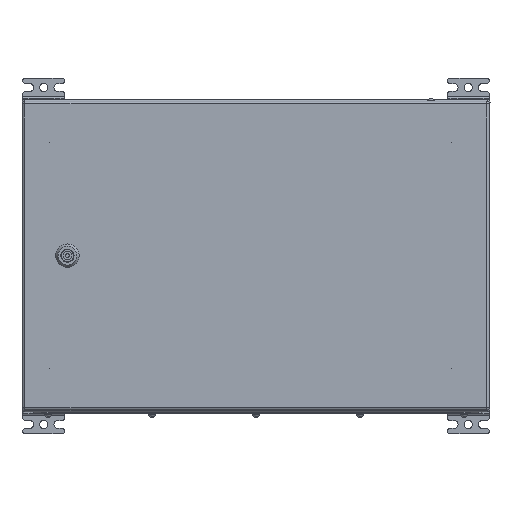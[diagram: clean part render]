
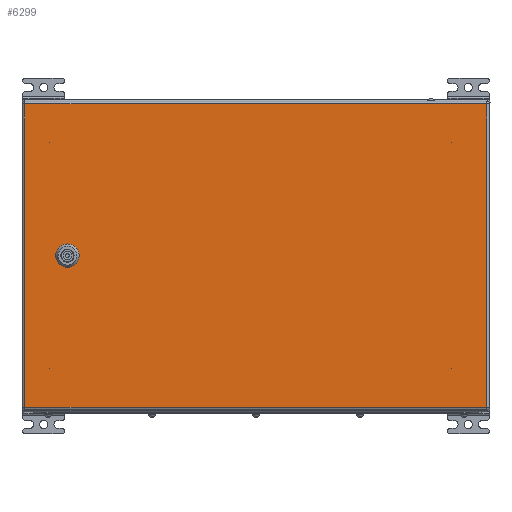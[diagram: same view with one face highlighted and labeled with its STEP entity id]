
A CAD part, top view. The second image highlights one B-rep face of the part: STEP entity #6299.
In plain terms, the highlighted planar face has unit normal (0, 0, 1).
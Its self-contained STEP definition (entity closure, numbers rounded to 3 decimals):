
#6299=ADVANCED_FACE('',(#14324,#14326),#14328,.T.);
#14324=FACE_BOUND('',#14325,.T.);
#14325=EDGE_LOOP('',(#36809,#36810,#36811,#36812));
#14326=FACE_BOUND('',#14327,.T.);
#14327=EDGE_LOOP('',(#36813,#36814,#36815,#36816,#36817,#36818,#36819,#36820));
#14328=PLANE('',#14329);
#14329=AXIS2_PLACEMENT_3D('',#14330,#14331,#14332);
#14330=CARTESIAN_POINT('',(0.,0.,1.5));
#14331=DIRECTION('',(0.,0.,1.));
#14332=DIRECTION('',(1.,0.,0.));
#36809=ORIENTED_EDGE('',*,*,#41117,.T.);
#36810=ORIENTED_EDGE('',*,*,#41118,.T.);
#36811=ORIENTED_EDGE('',*,*,#41119,.T.);
#36812=ORIENTED_EDGE('',*,*,#41120,.T.);
#36813=ORIENTED_EDGE('',*,*,#41079,.T.);
#36814=ORIENTED_EDGE('',*,*,#41094,.T.);
#36815=ORIENTED_EDGE('',*,*,#41092,.T.);
#36816=ORIENTED_EDGE('',*,*,#41090,.T.);
#36817=ORIENTED_EDGE('',*,*,#41088,.T.);
#36818=ORIENTED_EDGE('',*,*,#41086,.T.);
#36819=ORIENTED_EDGE('',*,*,#41084,.T.);
#36820=ORIENTED_EDGE('',*,*,#41082,.T.);
#41079=EDGE_CURVE('',#44575,#44576,#44577,.F.);
#41082=EDGE_CURVE('',#44580,#44575,#44581,.F.);
#41084=EDGE_CURVE('',#44583,#44580,#44584,.F.);
#41086=EDGE_CURVE('',#44586,#44583,#44587,.F.);
#41088=EDGE_CURVE('',#44589,#44586,#44590,.F.);
#41090=EDGE_CURVE('',#44592,#44589,#44593,.F.);
#41092=EDGE_CURVE('',#44595,#44592,#44596,.F.);
#41094=EDGE_CURVE('',#44576,#44595,#44598,.F.);
#41117=EDGE_CURVE('',#44635,#44636,#44637,.T.);
#41118=EDGE_CURVE('',#44636,#44638,#44639,.T.);
#41119=EDGE_CURVE('',#44638,#44640,#44641,.T.);
#41120=EDGE_CURVE('',#44640,#44635,#44642,.T.);
#44575=VERTEX_POINT('',#53403);
#44576=VERTEX_POINT('',#53404);
#44577=LINE('',#53405,#53406);
#44580=VERTEX_POINT('',#53414);
#44581=CIRCLE('',#53415,11.25);
#44583=VERTEX_POINT('',#53422);
#44584=LINE('',#53423,#53424);
#44586=VERTEX_POINT('',#53429);
#44587=CIRCLE('',#53430,11.25);
#44589=VERTEX_POINT('',#53437);
#44590=LINE('',#53438,#53439);
#44592=VERTEX_POINT('',#53444);
#44593=CIRCLE('',#53445,11.25);
#44595=VERTEX_POINT('',#53452);
#44596=LINE('',#53453,#53454);
#44598=CIRCLE('',#53459,11.25);
#44635=VERTEX_POINT('',#53549);
#44636=VERTEX_POINT('',#53550);
#44637=LINE('',#53551,#53552);
#44638=VERTEX_POINT('',#53554);
#44639=LINE('',#53555,#53556);
#44640=VERTEX_POINT('',#53558);
#44641=LINE('',#53559,#53560);
#44642=LINE('',#53562,#53563);
#53403=CARTESIAN_POINT('',(-189.545,-64.6,1.5));
#53404=CARTESIAN_POINT('',(-199.455,-64.6,1.5));
#53405=CARTESIAN_POINT('',(-199.455,-64.6,1.5));
#53406=VECTOR('',#53407,1.);
#53407=DIRECTION('',(1.,0.,0.));
#53414=CARTESIAN_POINT('',(-184.4,-59.455,1.5));
#53415=AXIS2_PLACEMENT_3D('',#53416,#53417,#53418);
#53416=CARTESIAN_POINT('',(-194.5,-54.5,1.5));
#53417=DIRECTION('',(0.,0.,1.));
#53418=DIRECTION('',(0.44,-0.898,0.));
#53422=CARTESIAN_POINT('',(-184.4,-49.545,1.5));
#53423=CARTESIAN_POINT('',(-184.4,-59.455,1.5));
#53424=VECTOR('',#53425,1.);
#53425=DIRECTION('',(0.,1.,0.));
#53429=CARTESIAN_POINT('',(-189.545,-44.4,1.5));
#53430=AXIS2_PLACEMENT_3D('',#53431,#53432,#53433);
#53431=CARTESIAN_POINT('',(-194.5,-54.5,1.5));
#53432=DIRECTION('',(0.,0.,1.));
#53433=DIRECTION('',(0.898,0.44,0.));
#53437=CARTESIAN_POINT('',(-199.455,-44.4,1.5));
#53438=CARTESIAN_POINT('',(-189.545,-44.4,1.5));
#53439=VECTOR('',#53440,1.);
#53440=DIRECTION('',(-1.,0.,0.));
#53444=CARTESIAN_POINT('',(-204.6,-49.545,1.5));
#53445=AXIS2_PLACEMENT_3D('',#53446,#53447,#53448);
#53446=CARTESIAN_POINT('',(-194.5,-54.5,1.5));
#53447=DIRECTION('',(0.,0.,1.));
#53448=DIRECTION('',(-0.44,0.898,0.));
#53452=CARTESIAN_POINT('',(-204.6,-59.455,1.5));
#53453=CARTESIAN_POINT('',(-204.6,-49.545,1.5));
#53454=VECTOR('',#53455,1.);
#53455=DIRECTION('',(0.,-1.,0.));
#53459=AXIS2_PLACEMENT_3D('',#53460,#53461,#53462);
#53460=CARTESIAN_POINT('',(-194.5,-54.5,1.5));
#53461=DIRECTION('',(0.,0.,1.));
#53462=DIRECTION('',(-0.898,-0.44,0.));
#53549=CARTESIAN_POINT('',(-389.,0.,1.5));
#53550=CARTESIAN_POINT('',(-389.,-592.,1.5));
#53551=CARTESIAN_POINT('',(-389.,0.,1.5));
#53552=VECTOR('',#53553,1.);
#53553=DIRECTION('',(0.,-1.,0.));
#53554=CARTESIAN_POINT('',(0.,-592.,1.5));
#53555=CARTESIAN_POINT('',(-389.,-592.,1.5));
#53556=VECTOR('',#53557,1.);
#53557=DIRECTION('',(1.,0.,0.));
#53558=CARTESIAN_POINT('',(0.,0.,1.5));
#53559=CARTESIAN_POINT('',(0.,-592.,1.5));
#53560=VECTOR('',#53561,1.);
#53561=DIRECTION('',(0.,1.,0.));
#53562=CARTESIAN_POINT('',(0.,0.,1.5));
#53563=VECTOR('',#53564,1.);
#53564=DIRECTION('',(-1.,0.,0.));
